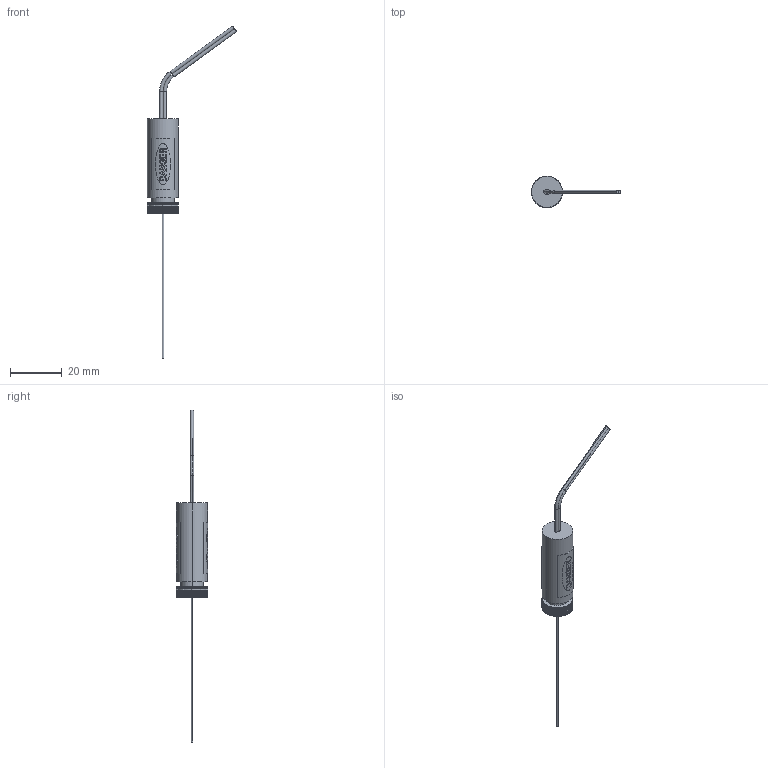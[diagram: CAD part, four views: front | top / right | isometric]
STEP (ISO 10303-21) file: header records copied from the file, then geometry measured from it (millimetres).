
FILE_DESCRIPTION(('CATIA V5 STEP Exchange'),'2;1');
FILE_NAME('X:\XDrive\Homepage\homes\techecke\elektronik\download\Laser_Modul_GALDOEP_650nm_3-5V_Point.stp','2023-09-28T13:56:06+00:00',('none'),('none'),'CATIA Version 5 Release 19 SP 2 (IN-10)','CATIA V5 STEP AP203','none');
FILE_SCHEMA(('CONFIG_CONTROL_DESIGN'));
Length unit declared in the file: millimetre
Products named in the file (1): Laser_Modul_GALDOEP_650nm_3-5V_Point
Bounding box: 34.46 x 12.2 x 128.45 mm (x, y, z)
Volume: 2612.4 mm3; surface area: 4780.3 mm2
Topology: 19 solids, 19 shells, 750 faces, 2116 edges, 1408 vertices
Faces by surface type: plane 586, cylinder 160, torus 4
Entity records: 23952 total; most frequent: CARTESIAN_POINT 5521, ORIENTED_EDGE 4232, DIRECTION 3094, EDGE_CURVE 2116, VECTOR 1500, LINE 1500, VERTEX_POINT 1408, AXIS2_PLACEMENT_3D 969
